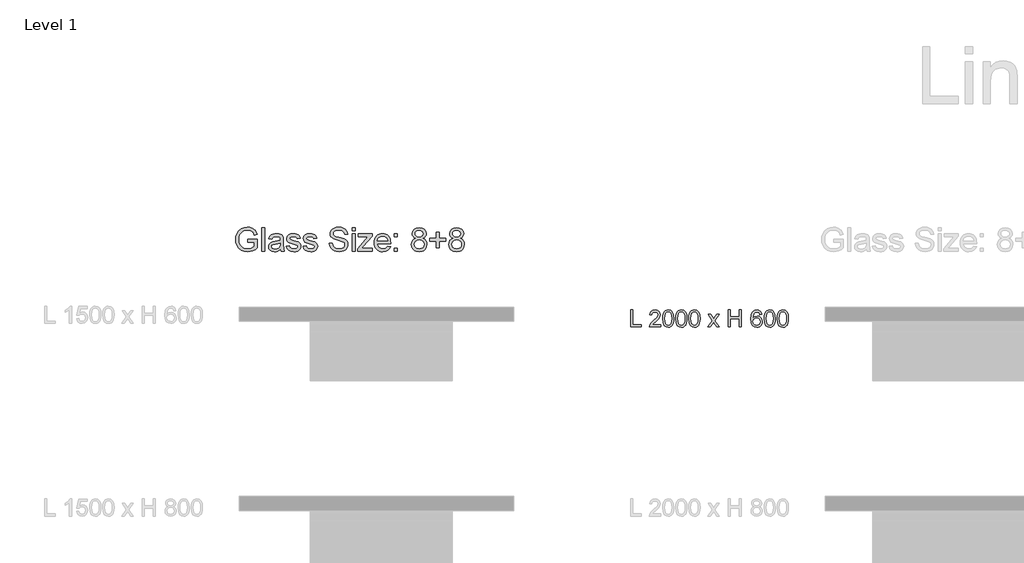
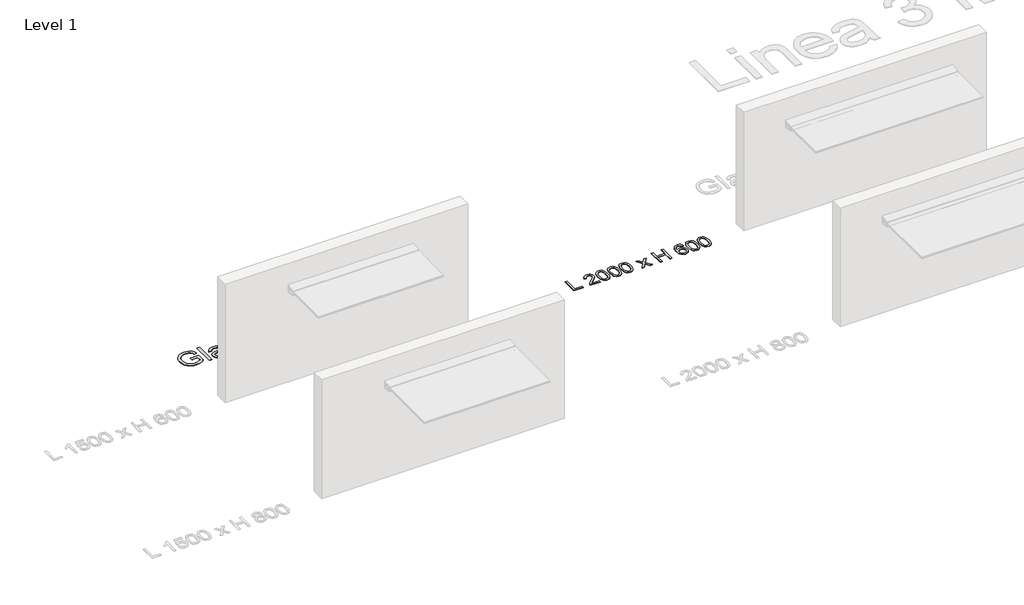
# One storey, part 4 of 6: 2 proxies.
"""IFC4 building model written with IfcOpenShell, lengths in millimetres."""

import ifcopenshell
import ifcopenshell.guid

model = None  # the IFC model being written
_history = None  # IfcOwnerHistory: only IFC2X3 demands one
_inside = {}  # id of a spatial element -> (the spatial element, [elements in it])
_under = {}  # id of a project, library or spatial element -> (it, [spatial elements below it])
_declared = {}  # id of a project -> (the project, [libraries it declares])
_typed = {}  # id of a type object -> (the type object, [elements of that type])
_made_of = {}  # id of a material, layer set ... -> (it, [elements and type objects made of it])


def new_model(schema):
    """Start an empty IFC model of exactly this schema.

    Asked for "IFC4X3", IfcOpenShell would pick the latest addendum, in which some entities
    have other attributes; the version numbers below select the first issue.
    IFC2X3 requires an IfcOwnerHistory on every rooted entity: one is made here for all.
    """
    global model, _history
    if schema == "IFC4X3":
        model = ifcopenshell.file(schema_version=(4, 3, 0, 0))
    else:
        model = ifcopenshell.file(schema=schema)
    _inside.clear()
    _under.clear()
    _declared.clear()
    _typed.clear()
    _made_of.clear()
    _history = None
    if model.schema == "IFC2X3":
        org = make("IfcOrganization", Name="unknown")
        user = make(
            "IfcPersonAndOrganization",
            ThePerson=make("IfcPerson", FamilyName="unknown"),
            TheOrganization=org,
        )
        app = make(
            "IfcApplication",
            ApplicationDeveloper=org,
            Version="unknown",
            ApplicationFullName="unknown",
            ApplicationIdentifier="unknown",
        )
        _history = make(
            "IfcOwnerHistory",
            OwningUser=user,
            OwningApplication=app,
            ChangeAction="ADDED",
            CreationDate=0,
        )
    return model


def make(cls, **values):
    """One entity of the class cls with the attributes given. An attribute that is None is left unset."""
    return model.create_entity(
        cls, **{name: value for name, value in values.items() if value is not None}
    )


def rooted(cls, **values):
    """An entity with a GlobalId (a new one), such as an element, a storey or a relation."""
    return make(cls, GlobalId=ifcopenshell.guid.new(), OwnerHistory=_history, **values)


def si_unit(unit_type, name, prefix=None):
    """IfcSIUnit, for example si_unit("LENGTHUNIT", "METRE", prefix="MILLI")."""
    return make("IfcSIUnit", UnitType=unit_type, Prefix=prefix, Name=name)


def assignment(units):
    """IfcUnitAssignment: the units of a project."""
    return None if units is None else make("IfcUnitAssignment", Units=units)


def point(xyz):
    """IfcCartesianPoint."""
    return None if xyz is None else make("IfcCartesianPoint", Coordinates=xyz)


def direction(xyz):
    """IfcDirection."""
    return None if xyz is None else make("IfcDirection", DirectionRatios=xyz)


def frame(location, z_axis=None, x_axis=None):
    """IfcAxis2Placement3D, a coordinate frame: its origin and axes. An axis left out is left unset."""
    return make(
        "IfcAxis2Placement3D",
        Location=point(location),
        Axis=direction(z_axis),
        RefDirection=direction(x_axis),
    )


def origin():
    """The frame at (0, 0, 0) with its axes left unset."""
    return frame((0.0, 0.0, 0.0))


def origin_with_axes():
    """The frame at (0, 0, 0) with the z axis (0, 0, 1) and the x axis (1, 0, 0) written out."""
    return frame((0.0, 0.0, 0.0), z_axis=(0.0, 0.0, 1.0), x_axis=(1.0, 0.0, 0.0))


def place(relative_to, where):
    """IfcLocalPlacement: puts the frame where relative to a parent placement (None: the world)."""
    return make(
        "IfcLocalPlacement", PlacementRelTo=relative_to, RelativePlacement=where
    )


def context(
    kind, dimensions, precision=None, world=None, true_north=None, identifier=None
):
    """IfcGeometricRepresentationContext, for example the 3D "Model" context."""
    return make(
        "IfcGeometricRepresentationContext",
        ContextIdentifier=identifier,
        ContextType=kind,
        CoordinateSpaceDimension=dimensions,
        Precision=precision,
        WorldCoordinateSystem=world,
        TrueNorth=true_north,
    )


def project(units=None, contexts=None):
    """IfcProject with its units and contexts."""
    return rooted(
        "IfcProject",
        Name="project",
        RepresentationContexts=contexts,
        UnitsInContext=assignment(units),
    )


def spatial(cls, under=None, at=None, **own):
    """A site, building, storey or space (cls), placed at a placement, below another one or the project."""
    s = rooted(cls, ObjectPlacement=at, **own)
    if under is not None:
        _under.setdefault(under.id(), (under, []))[1].append(s)
    return s


def polyline(points):
    """IfcPolyline through the points."""
    return make("IfcPolyline", Points=[point(p) for p in points])


def outline(outer, holes=None, kind="AREA"):
    """IfcArbitraryClosedProfileDef: a profile drawn as a closed curve; with holes, ...WithVoids."""
    if holes is None:
        return make("IfcArbitraryClosedProfileDef", ProfileType=kind, OuterCurve=outer)
    return make(
        "IfcArbitraryProfileDefWithVoids",
        ProfileType=kind,
        OuterCurve=outer,
        InnerCurves=holes,
    )


def extrude(swept, where, along, depth):
    """IfcExtrudedAreaSolid: the profile swept, set in the frame where, extruded along a direction by depth."""
    return make(
        "IfcExtrudedAreaSolid",
        SweptArea=swept,
        Position=where,
        ExtrudedDirection=direction(along),
        Depth=depth,
    )


def shape(context_of_items, identifier, shape_type, items):
    """IfcShapeRepresentation: the items that make up one representation, for example the "Body"."""
    return make(
        "IfcShapeRepresentation",
        ContextOfItems=context_of_items,
        RepresentationIdentifier=identifier,
        RepresentationType=shape_type,
        Items=items,
    )


def made_of(thing, what):
    """Note that an element or type object is made of a material, layer set ...; save() writes the relation."""
    if what is not None:
        _made_of.setdefault(what.id(), (what, []))[1].append(thing)
    return thing


def element(
    cls,
    number,
    at=None,
    inside=None,
    cuts=None,
    type_object=None,
    material=None,
    context=None,
    identifier="Body",
    shape_type=None,
    held_by="IfcProductDefinitionShape",
    body=None,
    shapes=None,
    **own,
):
    """One element of the class cls, such as IfcWall. Its Tag is "e" and its number.

    at: its placement. inside: the storey or other place that contains it. cuts: it is an
    opening in that element (IfcRelVoidsElement). A single representation is given by context,
    identifier, shape_type and body (its items); several are given by shapes. held_by: the class
    of the entity that holds the representations. save() writes the other relations.
    """
    e = rooted(cls, Tag="e%d" % number, ObjectPlacement=at, **own)
    if body is not None:
        shapes = [shape(context, identifier, shape_type, body)]
    if shapes is not None:
        e.Representation = make(held_by, Representations=shapes)
    if inside is not None:
        _inside.setdefault(inside.id(), (inside, []))[1].append(e)
    if cuts is not None:
        rooted(
            "IfcRelVoidsElement", RelatingBuildingElement=cuts, RelatedOpeningElement=e
        )
    if type_object is not None:
        _typed.setdefault(type_object.id(), (type_object, []))[1].append(e)
    return made_of(e, material)


def aggregate(whole, parts):
    """IfcRelAggregates: a whole, such as a stair, and the parts it consists of."""
    return rooted("IfcRelAggregates", RelatingObject=whole, RelatedObjects=parts)


def save(model, path):
    """Write the relations noted so far, then the file.

    IfcRelAggregates (storeys below a building ...), IfcRelContainedInSpatialStructure (elements
    in a storey), IfcRelDefinesByType, IfcRelAssociatesMaterial and IfcRelDeclares: one each for
    every whole, place, type object, material and project.
    """
    for whole, parts in _under.values():
        aggregate(whole, parts)
    for where, things in _inside.values():
        rooted(
            "IfcRelContainedInSpatialStructure",
            RelatedElements=things,
            RelatingStructure=where,
        )
    for kind, things in _typed.values():
        rooted("IfcRelDefinesByType", RelatedObjects=things, RelatingType=kind)
    for what, things in _made_of.values():
        rooted("IfcRelAssociatesMaterial", RelatedObjects=things, RelatingMaterial=what)
    for by, libraries in _declared.values():
        rooted("IfcRelDeclares", RelatingContext=by, RelatedDefinitions=libraries)
    model.write(path)


model = new_model("IFC4")

# Units and contexts
model_context = context("Model", 3, world=origin())
ifc_project = project(units=[si_unit("LENGTHUNIT", "METRE", prefix="MILLI")], contexts=[model_context])

# Site, building, storey
site = spatial("IfcSite", under=ifc_project)
building = spatial("IfcBuilding", under=site)
storey = spatial("IfcBuildingStorey", under=building, Name="Level 1", Elevation=0.0)

# Proxies
placement = place(None, origin())
element("IfcBuildingElementProxy", 1, Name="600mm Arial 2", ObjectType="600mm Arial 2", at=placement, inside=storey, context=model_context, shape_type="SweptSolid", body=[
    extrude(outline(polyline([(4422.5294323, 1398.8329866), (4422.5294323, 1430.2255835), (4524.5553723, 1430.2255835), (4524.5553723, 1336.3543611), (4499.7616587, 1319.1098925), (4474.1861958, 1306.7398605), (4447.8902973, 1299.2902501), (4420.935277, 1296.8070466), (4385.7182402, 1300.7541138), (4353.8887834, 1312.5953155), (4327.447265, 1331.9167845), (4308.3940433, 1358.3046534), (4296.8747383, 1389.9578334), (4293.03497, 1425.0752356), (4296.8594099, 1460.4455566), (4308.3327296, 1493.3480025), (4326.9797483, 1520.9468164), (4352.3252849, 1540.4062411), (4383.1967156, 1551.9485387), (4418.4214167, 1555.7959712), (4444.2804553, 1553.5656866), (4467.533663, 1546.8748328), (4487.1157151, 1536.2062549), (4501.9612864, 1522.0427981), (4512.9440968, 1503.7023478), (4520.937866, 1480.5027895), (4491.9978157, 1472.3480719), (4477.6810747, 1501.3800927), (4467.2884084, 1510.7917404), (4453.2169221, 1518.1187235), (4436.4399702, 1522.8322116), (4417.9309074, 1524.4033743), (4396.2641907, 1522.7095842), (4377.7397994, 1517.6282142), (4362.4267113, 1509.7953934), (4350.3939044, 1499.8472511), (4334.2377535, 1475.6590099), (4326.8801136, 1451.961278), (4324.4275669, 1426.3628226), (4327.3782871, 1396.3421189), (4336.2304476, 1371.6403758), (4350.7158012, 1352.4338699), (4370.5661005, 1338.8988782), (4393.7963156, 1330.8744522), (4418.4214167, 1328.1996435), (4440.1647754, 1330.2153303), (4461.3716396, 1336.2623906), (4493.1627754, 1353.4608738), (4493.1627754, 1398.8329866), (4422.5294323, 1398.8329866)])), origin_with_axes(), (0.0, 0.0, 1.0), 5.0),
    extrude(outline(polyline([(4571.6442677, 1300.7311212), (4571.6442677, 1551.8718966), (4603.0368646, 1551.8718966), (4603.0368646, 1300.7311212), (4571.6442677, 1300.7311212)])), origin_with_axes(), (0.0, 0.0, 1.0), 5.0),
    extrude(outline(polyline([(4767.8479984, 1324.2755689), (4752.8491429, 1311.4150275), (4737.4057633, 1302.9997268), (4721.1653061, 1298.3552166), (4703.7752176, 1296.8070466), (4677.5406328, 1300.5318518), (4658.188507, 1311.7062674), (4646.2553348, 1328.6748244), (4642.2776108, 1349.7820539), (4643.7797956, 1362.7958795), (4648.28635, 1374.6140886), (4664.074619, 1392.6403063), (4686.0555682, 1402.9410022), (4713.2175222, 1407.6621545), (4767.6640574, 1418.4533597), (4767.8479984, 1425.4431176), (4765.6866917, 1439.4532902), (4759.2027716, 1448.6196833), (4744.7020896, 1455.4255002), (4724.4992367, 1457.6941058), (4705.7985686, 1456.1842568), (4692.7387578, 1451.6547097), (4683.8329478, 1443.2777301), (4677.5942823, 1430.2255835), (4646.2016854, 1434.1496581), (4651.6509374, 1451.3174846), (4659.7826624, 1464.806491), (4671.3556168, 1475.1225153), (4687.1285573, 1482.7713951), (4706.4193695, 1487.5078758), (4728.5459386, 1489.0867027), (4749.7681312, 1487.6918168), (4766.5910683, 1483.5071591), (4779.2753329, 1477.2148442), (4788.0815082, 1469.4969865), (4797.7077537, 1448.1904876), (4799.2405954, 1420.7219653), (4799.2405954, 1381.6651601), (4800.8347507, 1327.1266544), (4807.0887446, 1300.7311212), (4775.6961477, 1300.7311212), (4767.8479984, 1324.2755689)]), holes=[polyline([(4767.8479984, 1387.0607627), (4717.2029104, 1377.4345172), (4690.1942406, 1372.3454829), (4677.9621643, 1364.068138), (4673.6702077, 1351.9893459), (4676.0077912, 1342.6543402), (4683.0205417, 1335.0054604), (4694.5551751, 1329.9010977), (4710.4584072, 1328.1996435), (4727.3196653, 1330.0773745), (4742.2188861, 1335.7105676), (4754.2976783, 1344.0109051), (4762.6976505, 1353.8900695), (4766.4224557, 1364.068138), (4767.6640574, 1378.1702812), (4767.8479984, 1387.0607627)])]), origin_with_axes(), (0.0, 0.0, 1.0), 5.0),
    extrude(outline(polyline([(4830.6331923, 1355.6681658), (4862.0257892, 1359.5922404), (4866.9768677, 1346.1645476), (4876.557128, 1336.2930474), (4890.8278837, 1330.2229945), (4909.8504486, 1328.1996435), (4928.6430872, 1330.0543819), (4941.8561822, 1335.6185971), (4949.6736746, 1343.6813441), (4952.2795054, 1353.0316782), (4949.6583461, 1361.0331116), (4941.7948685, 1367.1338213), (4909.4825666, 1376.0856165), (4862.2097302, 1391.4446898), (4850.2459012, 1399.1625475), (4841.5776816, 1409.3789371), (4836.3123706, 1421.4424009), (4834.5572669, 1434.7014811), (4840.1981242, 1458.0926446), (4855.5878543, 1475.9655782), (4875.5454525, 1485.2545986), (4902.5541223, 1489.0867027), (4922.9869015, 1487.5461969), (4940.7525362, 1482.9246793), (4955.0386203, 1475.6743383), (4965.0327479, 1466.2473622), (4971.6546238, 1453.946308), (4975.823953, 1438.0737327), (4944.4313561, 1434.1496581), (4940.4689605, 1444.0288225), (4932.6284754, 1451.4707687), (4920.833259, 1456.1382715), (4905.006669, 1457.6941058), (4886.9804512, 1456.2072494), (4874.9629727, 1451.7466802), (4868.203141, 1445.3087453), (4865.9498638, 1437.8897917), (4869.6899974, 1428.7540555), (4881.4009076, 1421.8256113), (4908.4402343, 1415.1424217), (4954.5174542, 1400.3658282), (4966.6882168, 1393.2994282), (4975.9159235, 1383.6271974), (4981.7330576, 1371.318479), (4983.6721023, 1356.3426161), (4981.3958324, 1340.8609155), (4974.5670229, 1326.2989199), (4963.4462567, 1313.7985962), (4948.2941171, 1304.5019116), (4929.9919878, 1298.7307629), (4909.4212529, 1296.8070466), (4877.7680729, 1300.5165234), (4854.6681493, 1311.6449537), (4839.2477623, 1330.0697103), (4830.6331923, 1355.6681658)])), origin_with_axes(), (0.0, 0.0, 1.0), 5.0),
    extrude(outline(polyline([(5007.21655, 1355.6681658), (5038.6091469, 1359.5922404), (5043.5602254, 1346.1645476), (5053.1404857, 1336.2930474), (5067.4112414, 1330.2229945), (5086.4338063, 1328.1996435), (5105.2264448, 1330.0543819), (5118.4395398, 1335.6185971), (5126.2570322, 1343.6813441), (5128.862863, 1353.0316782), (5126.2417038, 1361.0331116), (5118.3782262, 1367.1338213), (5086.0659243, 1376.0856165), (5038.7930879, 1391.4446898), (5026.8292588, 1399.1625475), (5018.1610393, 1409.3789371), (5012.8957283, 1421.4424009), (5011.1406246, 1434.7014811), (5016.7814818, 1458.0926446), (5032.171212, 1475.9655782), (5052.1288102, 1485.2545986), (5079.13748, 1489.0867027), (5099.5702592, 1487.5461969), (5117.3358939, 1482.9246793), (5131.621978, 1475.6743383), (5141.6161055, 1466.2473622), (5148.2379815, 1453.946308), (5152.4073107, 1438.0737327), (5121.0147138, 1434.1496581), (5117.0523182, 1444.0288225), (5109.2118331, 1451.4707687), (5097.4166167, 1456.1382715), (5081.5900267, 1457.6941058), (5063.5638089, 1456.2072494), (5051.5463304, 1451.7466802), (5044.7864987, 1445.3087453), (5042.5332215, 1437.8897917), (5046.2733551, 1428.7540555), (5057.9842653, 1421.8256113), (5085.0235919, 1415.1424217), (5131.1008118, 1400.3658282), (5143.2715745, 1393.2994282), (5152.4992812, 1383.6271974), (5158.3164153, 1371.318479), (5160.25546, 1356.3426161), (5157.9791901, 1340.8609155), (5151.1503806, 1326.2989199), (5140.0296144, 1313.7985962), (5124.8774748, 1304.5019116), (5106.5753455, 1298.7307629), (5086.0046106, 1296.8070466), (5054.3514306, 1300.5165234), (5031.251507, 1311.6449537), (5015.83112, 1330.0697103), (5007.21655, 1355.6681658)])), origin_with_axes(), (0.0, 0.0, 1.0), 5.0),
    extrude(outline(polyline([(5285.8258476, 1387.0607627), (5317.2184446, 1387.0607627), (5320.8206224, 1369.6400174), (5327.3351994, 1355.637509), (5337.4979396, 1344.524407), (5352.0446068, 1335.7718812), (5369.8255699, 1330.0927029), (5389.6911976, 1328.1996435), (5407.1809208, 1329.6328504), (5422.4940089, 1333.9324713), (5434.902362, 1340.7382882), (5443.6778804, 1349.6900834), (5448.8972062, 1359.9677866), (5450.6369815, 1370.7513276), (5445.4253199, 1390.3410439), (5437.4852002, 1398.0895584), (5424.0881642, 1404.5964712), (5378.3788263, 1416.5832928), (5329.1746094, 1432.0649935), (5313.5472888, 1442.6262724), (5302.4725079, 1455.4255002), (5295.8736246, 1470.1867652), (5293.6739969, 1486.6341561), (5296.3947908, 1505.0205916), (5304.5571726, 1522.1654255), (5317.9465444, 1536.6967643), (5336.3483083, 1547.2427148), (5358.4365564, 1553.6576571), (5382.8853807, 1555.7959712), (5409.3728844, 1553.5580224), (5432.5494501, 1546.844176), (5451.5873433, 1535.7923877), (5465.6588296, 1520.5406133), (5474.5646396, 1502.0392146), (5478.1055038, 1481.2385535), (5446.7129069, 1481.2385535), (5440.9494223, 1499.9698784), (5428.9319438, 1513.4895417), (5410.1546336, 1521.6749161), (5384.111654, 1524.4033743), (5357.4555378, 1521.705573), (5339.1687369, 1513.6121691), (5328.5921296, 1501.7019895), (5325.0665938, 1487.5538611), (5327.5651257, 1475.4903973), (5335.0607213, 1465.7875097), (5352.7803708, 1457.111626), (5386.318946, 1448.2518013), (5441.8691273, 1432.4941891), (5459.7650535, 1421.1051757), (5472.2500487, 1407.0490178), (5479.584696, 1390.4789996), (5482.0295784, 1371.5484053), (5479.216814, 1352.1962795), (5470.7785207, 1333.9937849), (5457.059588, 1318.3281433), (5438.4049051, 1306.5865763), (5415.9717676, 1299.251929), (5390.9174709, 1296.8070466), (5360.1610033, 1299.4435342), (5334.8461235, 1307.3529971), (5314.6815916, 1320.5660921), (5299.3761678, 1339.113476), (5289.5506528, 1361.7075619), (5285.8258476, 1387.0607627)])), origin_with_axes(), (0.0, 0.0, 1.0), 5.0),
    extrude(outline(polyline([(5525.1943992, 1520.4792997), (5525.1943992, 1551.8718966), (5556.5869961, 1551.8718966), (5556.5869961, 1520.4792997), (5525.1943992, 1520.4792997)])), origin_with_axes(), (0.0, 0.0, 1.0), 5.0),
    extrude(outline(polyline([(5525.1943992, 1300.7311212), (5525.1943992, 1485.1626281), (5556.5869961, 1485.1626281), (5556.5869961, 1300.7311212), (5525.1943992, 1300.7311212)])), origin_with_axes(), (0.0, 0.0, 1.0), 5.0),
    extrude(outline(polyline([(5584.0555184, 1300.7311212), (5584.0555184, 1330.2843081), (5692.396766, 1453.7700312), (5660.3297187, 1453.7700312), (5591.9036676, 1453.7700312), (5591.9036676, 1485.1626281), (5737.0944284, 1485.1626281), (5737.0944284, 1458.4911835), (5641.015914, 1348.9236626), (5626.3006342, 1332.1237181), (5662.5983244, 1332.1237181), (5741.018503, 1332.1237181), (5741.018503, 1300.7311212), (5584.0555184, 1300.7311212)])), origin_with_axes(), (0.0, 0.0, 1.0), 5.0),
    extrude(outline(polyline([(5901.5376802, 1355.6681658), (5932.3171405, 1351.7440912), (5921.2270312, 1328.5521971), (5903.5303744, 1311.2157581), (5879.6257089, 1300.4092245), (5849.9115736, 1296.8070466), (5830.4329884, 1298.3609648), (5813.0773888, 1303.0227195), (5797.844775, 1310.7923106), (5784.7351468, 1321.6697381), (5774.1930283, 1335.3522658), (5766.6629438, 1351.5371576), (5762.144893, 1370.2244133), (5760.6388761, 1391.414033), (5762.1602214, 1413.3221722), (5766.7242574, 1432.6321449), (5774.3309841, 1449.3439509), (5784.9804014, 1463.4575904), (5798.0555407, 1474.670327), (5812.9394331, 1482.6794246), (5829.6320786, 1487.4848832), (5848.1334773, 1489.0867027), (5866.0389838, 1487.4887153), (5882.2315397, 1482.6947531), (5896.7111451, 1474.704816), (5909.4778, 1463.5189041), (5919.8992071, 1449.4359214), (5927.3430694, 1432.7547722), (5931.8093867, 1413.4754564), (5933.2981592, 1391.597974), (5933.1142182, 1383.1366881), (5792.031473, 1383.1366881), (5797.4653966, 1359.6382257), (5810.0883476, 1342.3631003), (5828.3061706, 1331.7405077), (5850.5247102, 1328.1996435), (5867.2326842, 1329.8397841), (5881.3041705, 1334.7602058), (5892.7391692, 1343.2674769), (5901.5376802, 1355.6681658)]), holes=[polyline([(5792.031473, 1414.529285), (5901.9055622, 1414.529285), (5897.6595909, 1431.1146317), (5889.3362607, 1442.978826), (5871.0341315, 1454.0152859), (5848.0108499, 1457.6941058), (5826.849971, 1454.7587141), (5809.3525836, 1445.9525388), (5797.1894852, 1432.2259418), (5792.031473, 1414.529285)])]), origin_with_axes(), (0.0, 0.0, 1.0), 5.0),
    extrude(outline(polyline([(5972.5389053, 1453.7700312), (5972.5389053, 1485.1626281), (6003.9315022, 1485.1626281), (6003.9315022, 1453.7700312), (5972.5389053, 1453.7700312)])), origin_with_axes(), (0.0, 0.0, 1.0), 5.0),
    extrude(outline(polyline([(5972.5389053, 1300.7311212), (5972.5389053, 1332.1237181), (6003.9315022, 1332.1237181), (6003.9315022, 1300.7311212), (5972.5389053, 1300.7311212)])), origin_with_axes(), (0.0, 0.0, 1.0), 5.0),
    extrude(outline(polyline([(6198.7863323, 1439.0547514), (6181.9787237, 1447.3320963), (6170.1835072, 1458.5524971), (6163.2167419, 1472.4860277), (6160.8944868, 1488.9027617), (6165.9528643, 1513.4435565), (6181.1279966, 1533.7230515), (6204.7184295, 1547.3346853), (6235.0227089, 1551.8718966), (6265.5109292, 1547.2273864), (6289.4079305, 1533.2938558), (6304.8589743, 1512.6924641), (6310.0093222, 1488.0443704), (6307.717724, 1472.1564667), (6300.8429292, 1458.4605266), (6289.3082958, 1447.3091037), (6273.0371817, 1439.0547514), (6292.3586507, 1429.0989449), (6306.4224728, 1414.4373145), (6314.9987218, 1395.7749675), (6317.8574715, 1373.8170109), (6312.1859574, 1343.8039715), (6295.1714151, 1319.0025936), (6282.9316745, 1309.2920418), (6268.8985093, 1302.3559333), (6235.4519045, 1296.8070466), (6202.0052998, 1302.378926), (6187.9721345, 1309.3437752), (6175.732394, 1319.0945641), (6158.7178517, 1344.1335324), (6153.0463376, 1374.6754022), (6156.0200504, 1397.4840859), (6164.9411888, 1416.2460677), (6179.3499003, 1430.317554), (6198.7863323, 1439.0547514)]), holes=[polyline([(6192.2870838, 1487.9830567), (6195.0691914, 1474.2794524), (6203.4155141, 1463.3349631), (6217.0807974, 1456.1612642), (6235.8197865, 1453.7700312), (6254.1219158, 1456.1459357), (6267.5802654, 1463.2736494), (6275.8576103, 1473.8502568), (6278.6167253, 1486.5728424), (6275.7656398, 1499.7782732), (6267.2123834, 1510.6997699), (6253.5700928, 1518.0344172), (6235.4519045, 1520.4792997), (6217.2187531, 1518.0880667), (6203.5994551, 1510.9143678), (6195.1151766, 1500.3990741), (6192.2870838, 1487.9830567)]), polyline([(6184.4389345, 1375.7790482), (6189.681253, 1352.14263), (6196.9392582, 1342.0028825), (6208.2286369, 1334.4536374), (6235.6971592, 1328.1996435), (6257.0649717, 1331.4875888), (6273.0984954, 1341.3514248), (6283.1232797, 1356.2889667), (6286.4648745, 1374.7980296), (6283.0159808, 1393.621325), (6272.6692997, 1408.8884278), (6256.2678941, 1419.0051826), (6234.6548269, 1422.3774343), (6213.5859184, 1419.0511679), (6197.7133432, 1409.0723688), (6187.7575367, 1394.0965059), (6184.4389345, 1375.7790482)])]), origin_with_axes(), (0.0, 0.0, 1.0), 5.0),
    extrude(outline(polyline([(6415.9593368, 1339.9718674), (6415.9593368, 1406.6811358), (6349.2500684, 1406.6811358), (6349.2500684, 1438.0737327), (6415.9593368, 1438.0737327), (6415.9593368, 1504.7830012), (6447.3519338, 1504.7830012), (6447.3519338, 1438.0737327), (6514.0612022, 1438.0737327), (6514.0612022, 1406.6811358), (6447.3519338, 1406.6811358), (6447.3519338, 1339.9718674), (6415.9593368, 1339.9718674)])), origin_with_axes(), (0.0, 0.0, 1.0), 5.0),
    extrude(outline(polyline([(6595.1178685, 1439.0547514), (6578.3102598, 1447.3320963), (6566.5150434, 1458.5524971), (6559.5482781, 1472.4860277), (6557.226023, 1488.9027617), (6562.2844004, 1513.4435565), (6577.4595327, 1533.7230515), (6601.0499657, 1547.3346853), (6631.354245, 1551.8718966), (6661.8424654, 1547.2273864), (6685.7394666, 1533.2938558), (6701.1905104, 1512.6924641), (6706.3408584, 1488.0443704), (6704.0492601, 1472.1564667), (6697.1744653, 1458.4605266), (6685.6398319, 1447.3091037), (6669.3687178, 1439.0547514), (6688.6901868, 1429.0989449), (6702.7540089, 1414.4373145), (6711.3302579, 1395.7749675), (6714.1890076, 1373.8170109), (6708.5174935, 1343.8039715), (6691.5029512, 1319.0025936), (6679.2632107, 1309.2920418), (6665.2300454, 1302.3559333), (6631.7834407, 1296.8070466), (6598.3368359, 1302.378926), (6584.3036707, 1309.3437752), (6572.0639301, 1319.0945641), (6555.0493878, 1344.1335324), (6549.3778737, 1374.6754022), (6552.3515865, 1397.4840859), (6561.2727249, 1416.2460677), (6575.6814364, 1430.317554), (6595.1178685, 1439.0547514)]), holes=[polyline([(6588.6186199, 1487.9830567), (6591.4007275, 1474.2794524), (6599.7470503, 1463.3349631), (6613.4123335, 1456.1612642), (6632.1513227, 1453.7700312), (6650.4534519, 1456.1459357), (6663.9118016, 1463.2736494), (6672.1891465, 1473.8502568), (6674.9482614, 1486.5728424), (6672.097176, 1499.7782732), (6663.5439196, 1510.6997699), (6649.9016289, 1518.0344172), (6631.7834407, 1520.4792997), (6613.5502893, 1518.0880667), (6599.9309913, 1510.9143678), (6591.4467127, 1500.3990741), (6588.6186199, 1487.9830567)]), polyline([(6580.7704707, 1375.7790482), (6586.0127891, 1352.14263), (6593.2707943, 1342.0028825), (6604.560173, 1334.4536374), (6632.0286953, 1328.1996435), (6653.3965079, 1331.4875888), (6669.4300315, 1341.3514248), (6679.4548159, 1356.2889667), (6682.7964107, 1374.7980296), (6679.347517, 1393.621325), (6669.0008358, 1408.8884278), (6652.5994302, 1419.0051826), (6630.986363, 1422.3774343), (6609.9174546, 1419.0511679), (6594.0448793, 1409.0723688), (6584.0890728, 1394.0965059), (6580.7704707, 1375.7790482)])]), origin_with_axes(), (0.0, 0.0, 1.0), 5.0),
])
element("IfcBuildingElementProxy", 2, Name="600mm Arial 3", ObjectType="600mm Arial 3", at=placement, inside=storey, context=model_context, shape_type="SweptSolid", body=[
    extrude(outline(polyline([(8472.1620309, 500.7311212), (8472.1620309, 681.5524795), (8494.7647007, 681.5524795), (8494.7647007, 523.333791), (8585.1753798, 523.333791), (8585.1753798, 500.7311212), (8472.1620309, 500.7311212)])), origin_with_axes(), (0.0, 0.0, 1.0), 5.0),
    extrude(outline(polyline([(8788.5994079, 523.333791), (8788.5994079, 500.7311212), (8669.9353915, 500.7311212), (8672.3634127, 516.3146025), (8686.1148417, 540.3078662), (8714.4343977, 566.5084219), (8753.4372468, 604.164823), (8760.737865, 617.1436998), (8763.1714044, 629.7694098), (8760.8703025, 641.0872994), (8753.9669969, 650.4958814), (8743.3554407, 656.8363276), (8729.9295873, 658.9498097), (8715.8305098, 656.8859917), (8704.8768234, 650.6945377), (8697.8079709, 640.861052), (8695.363395, 627.8711387), (8672.7607252, 630.6964725), (8678.2403276, 652.5596994), (8690.0879672, 668.5294568), (8707.6856025, 678.2967238), (8730.4151915, 681.5524795), (8753.3103275, 677.9325206), (8770.8748534, 667.0726441), (8782.049269, 650.8490482), (8785.7740742, 631.1379308), (8781.7568028, 609.7051258), (8768.4026864, 587.5439144), (8736.0217131, 556.5756081), (8710.0198137, 534.8337822), (8699.8221248, 523.333791), (8788.5994079, 523.333791)])), origin_with_axes(), (0.0, 0.0, 1.0), 5.0),
    extrude(outline(polyline([(8811.2020777, 589.6849876), (8812.8630649, 618.6281036), (8817.8460265, 641.7108594), (8826.1012985, 659.2864217), (8837.5792167, 671.7079573), (8852.3625547, 679.0913489), (8870.5340859, 681.5524795), (8896.9332978, 675.7252287), (8907.3627524, 668.6122303), (8915.1655295, 658.9277368), (8925.760531, 632.1753581), (8929.866094, 589.6849876), (8928.2216615, 560.9074186), (8923.288364, 537.8798451), (8915.0827561, 520.2877281), (8903.6213925, 507.8165284), (8888.8049451, 500.3834727), (8870.5340859, 497.9057875), (8847.0484993, 502.2100068), (8829.2135802, 515.1226649), (8821.3335478, 528.7388972), (8815.7049533, 545.7046951), (8811.2020777, 589.6849876)]), holes=[polyline([(8833.8047475, 589.7291335), (8836.4534978, 554.175178), (8844.3997489, 533.5976986), (8856.2308339, 523.7807676), (8870.5340859, 520.5084573), (8884.8373378, 523.7918041), (8896.6684228, 533.6418445), (8904.6146739, 554.2303603), (8907.2634243, 589.7291335), (8904.7029656, 624.4829456), (8897.0215895, 645.2204536), (8885.2125775, 655.5174707), (8870.2692108, 658.9498097), (8856.1204693, 655.9258197), (8844.7529156, 646.8538497), (8836.5417895, 624.8250758), (8833.8047475, 589.7291335)])]), origin_with_axes(), (0.0, 0.0, 1.0), 5.0),
    extrude(outline(polyline([(8949.6434301, 589.6849876), (8951.3044173, 618.6281036), (8956.2873789, 641.7108594), (8964.5426509, 659.2864217), (8976.0205692, 671.7079573), (8990.8039071, 679.0913489), (9008.9754383, 681.5524795), (9035.3746503, 675.7252287), (9045.8041048, 668.6122303), (9053.6068819, 658.9277368), (9064.2018834, 632.1753581), (9068.3074465, 589.6849876), (9066.6630139, 560.9074186), (9061.7297164, 537.8798451), (9053.5241085, 520.2877281), (9042.0627449, 507.8165284), (9027.2462976, 500.3834727), (9008.9754383, 497.9057875), (8985.4898517, 502.2100068), (8967.6549326, 515.1226649), (8959.7749002, 528.7388972), (8954.1463057, 545.7046951), (8949.6434301, 589.6849876)]), holes=[polyline([(8972.2460999, 589.7291335), (8974.8948502, 554.175178), (8982.8411013, 533.5976986), (8994.6721863, 523.7807676), (9008.9754383, 520.5084573), (9023.2786903, 523.7918041), (9035.1097752, 533.6418445), (9043.0560263, 554.2303603), (9045.7047767, 589.7291335), (9043.144318, 624.4829456), (9035.4629419, 645.2204536), (9023.6539299, 655.5174707), (9008.7105632, 658.9498097), (8994.5618217, 655.9258197), (8983.1942681, 646.8538497), (8974.9831419, 624.8250758), (8972.2460999, 589.7291335)])]), origin_with_axes(), (0.0, 0.0, 1.0), 5.0),
    extrude(outline(polyline([(9088.0847825, 589.6849876), (9089.7457697, 618.6281036), (9094.7287314, 641.7108594), (9102.9840033, 659.2864217), (9114.4619216, 671.7079573), (9129.2452596, 679.0913489), (9147.4167907, 681.5524795), (9173.8160027, 675.7252287), (9184.2454572, 668.6122303), (9192.0482344, 658.9277368), (9202.6432358, 632.1753581), (9206.7487989, 589.6849876), (9205.1043664, 560.9074186), (9200.1710688, 537.8798451), (9191.9654609, 520.2877281), (9180.5040974, 507.8165284), (9165.68765, 500.3834727), (9147.4167907, 497.9057875), (9123.9312041, 502.2100068), (9106.096285, 515.1226649), (9098.2162527, 528.7388972), (9092.5876581, 545.7046951), (9088.0847825, 589.6849876)]), holes=[polyline([(9110.6874523, 589.7291335), (9113.3362027, 554.175178), (9121.2824538, 533.5976986), (9133.1135387, 523.7807676), (9147.4167907, 520.5084573), (9161.7200427, 523.7918041), (9173.5511276, 533.6418445), (9181.4973787, 554.2303603), (9184.1461291, 589.7291335), (9181.5856704, 624.4829456), (9173.9042944, 645.2204536), (9162.0952823, 655.5174707), (9147.1519157, 658.9498097), (9133.0031741, 655.9258197), (9121.6356205, 646.8538497), (9113.4244944, 624.8250758), (9110.6874523, 589.7291335)])]), origin_with_axes(), (0.0, 0.0, 1.0), 5.0),
    extrude(outline(polyline([(9288.6834769, 500.7311212), (9336.9790252, 567.5237762), (9291.5088106, 633.5218062), (9318.614356, 633.5218062), (9340.5548382, 601.692656), (9350.8408188, 586.7272164), (9359.7582783, 598.9997598), (9384.7448234, 633.5218062), (9411.9386605, 633.5218062), (9364.1728623, 567.4796304), (9410.1728269, 500.7311212), (9383.0231357, 500.7311212), (9355.2995485, 540.9038351), (9350.2669228, 548.2761903), (9315.8773139, 500.7311212), (9288.6834769, 500.7311212)])), origin_with_axes(), (0.0, 0.0, 1.0), 5.0),
    extrude(outline(polyline([(9503.4088398, 500.7311212), (9503.4088398, 681.5524795), (9526.0115096, 681.5524795), (9526.0115096, 608.0938027), (9622.0728562, 608.0938027), (9622.0728562, 681.5524795), (9644.6755259, 681.5524795), (9644.6755259, 500.7311212), (9622.0728562, 500.7311212), (9622.0728562, 585.4911329), (9526.0115096, 585.4911329), (9526.0115096, 500.7311212), (9503.4088398, 500.7311212)])), origin_with_axes(), (0.0, 0.0, 1.0), 5.0),
    extrude(outline(polyline([(9862.2262226, 633.5218062), (9839.6235528, 630.6964725), (9831.05926, 649.5467459), (9820.8063888, 656.5990437), (9808.4124444, 658.9498097), (9788.0170665, 653.4757256), (9779.5245107, 644.8286593), (9772.5880957, 632.9258373), (9767.9031185, 616.0897178), (9766.164876, 592.6427589), (9775.2313278, 603.2212056), (9786.0967225, 610.6763343), (9810.7963197, 616.5698038), (9831.6773017, 612.541496), (9849.2032, 600.4565725), (9861.0894672, 581.9925751), (9865.0515563, 558.8270459), (9863.1863946, 542.6420775), (9857.5909095, 527.6380103), (9848.7286322, 514.9129721), (9837.0630941, 505.5650906), (9823.1240453, 499.8206133), (9807.4412359, 497.9057875), (9781.7980214, 502.982559), (9761.3750525, 518.2128736), (9753.5819322, 530.0108492), (9748.0154178, 545.0976898), (9743.5622063, 585.1379662), (9748.5065403, 630.1556859), (9754.6869578, 647.3256583), (9763.3395423, 660.9363725), (9783.5914461, 676.3984527), (9809.8251112, 681.5524795), (9829.6576296, 678.3629426), (9845.5390953, 668.7943319), (9856.6638468, 653.5971267), (9862.2262226, 633.5218062)]), holes=[polyline([(9766.164876, 559.1802126), (9771.396158, 539.6015328), (9785.3020974, 525.3865725), (9805.6754023, 520.5084573), (9820.5911778, 523.0358066), (9832.3174164, 530.6178545), (9839.916019, 542.5372311), (9842.4488866, 558.0765666), (9839.9491284, 572.9923421), (9832.4498539, 584.365414), (9820.5249591, 591.566704), (9804.7483397, 593.9671341), (9789.8546371, 591.566704), (9777.3999922, 584.365414), (9768.9736551, 573.2682536), (9766.164876, 559.1802126)])]), origin_with_axes(), (0.0, 0.0, 1.0), 5.0),
    extrude(outline(polyline([(9884.8288924, 589.6849876), (9886.4898796, 618.6281036), (9891.4728412, 641.7108594), (9899.7281132, 659.2864217), (9911.2060315, 671.7079573), (9925.9893694, 679.0913489), (9944.1609006, 681.5524795), (9970.5601126, 675.7252287), (9980.9895671, 668.6122303), (9988.7923442, 658.9277368), (9999.3873457, 632.1753581), (10003.4929088, 589.6849876), (10001.8484762, 560.9074186), (9996.9151787, 537.8798451), (9988.7095708, 520.2877281), (9977.2482072, 507.8165284), (9962.4317599, 500.3834727), (9944.1609006, 497.9057875), (9920.675314, 502.2100068), (9902.8403949, 515.1226649), (9894.9603625, 528.7388972), (9889.331768, 545.7046951), (9884.8288924, 589.6849876)]), holes=[polyline([(9907.4315622, 589.7291335), (9910.0803125, 554.175178), (9918.0265636, 533.5976986), (9929.8576486, 523.7807676), (9944.1609006, 520.5084573), (9958.4641526, 523.7918041), (9970.2952375, 533.6418445), (9978.2414886, 554.2303603), (9980.890239, 589.7291335), (9978.3297803, 624.4829456), (9970.6484042, 645.2204536), (9958.8393922, 655.5174707), (9943.8960255, 658.9498097), (9929.747284, 655.9258197), (9918.3797304, 646.8538497), (9910.1686042, 624.8250758), (9907.4315622, 589.7291335)])]), origin_with_axes(), (0.0, 0.0, 1.0), 5.0),
    extrude(outline(polyline([(10023.2702448, 589.6849876), (10024.931232, 618.6281036), (10029.9141937, 641.7108594), (10038.1694656, 659.2864217), (10049.6473839, 671.7079573), (10064.4307219, 679.0913489), (10082.602253, 681.5524795), (10109.001465, 675.7252287), (10119.4309195, 668.6122303), (10127.2336967, 658.9277368), (10137.8286981, 632.1753581), (10141.9342612, 589.6849876), (10140.2898287, 560.9074186), (10135.3565311, 537.8798451), (10127.1509232, 520.2877281), (10115.6895597, 507.8165284), (10100.8731123, 500.3834727), (10082.602253, 497.9057875), (10059.1166664, 502.2100068), (10041.2817473, 515.1226649), (10033.401715, 528.7388972), (10027.7731204, 545.7046951), (10023.2702448, 589.6849876)]), holes=[polyline([(10045.8729146, 589.7291335), (10048.521665, 554.175178), (10056.4679161, 533.5976986), (10068.299001, 523.7807676), (10082.602253, 520.5084573), (10096.905505, 523.7918041), (10108.7365899, 533.6418445), (10116.682841, 554.2303603), (10119.3315914, 589.7291335), (10116.7711327, 624.4829456), (10109.0897567, 645.2204536), (10097.2807446, 655.5174707), (10082.337378, 658.9498097), (10068.1886364, 655.9258197), (10056.8210828, 646.8538497), (10048.6099567, 624.8250758), (10045.8729146, 589.7291335)])]), origin_with_axes(), (0.0, 0.0, 1.0), 5.0),
])

save(model, "model.ifc")
